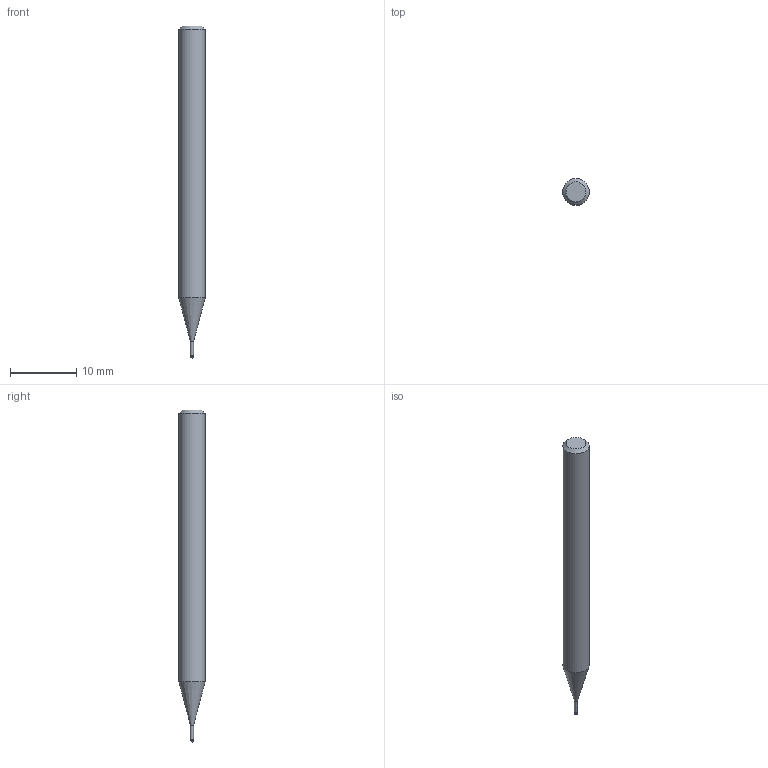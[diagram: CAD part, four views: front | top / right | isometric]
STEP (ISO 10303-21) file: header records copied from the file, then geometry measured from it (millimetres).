
FILE_DESCRIPTION((''),'2;1');
FILE_NAME('C:\Users\nsx150\AppData\Local\Temp\Mastercam 2021\LJSIDMOTM8\TEMP.step','2021-08-03T14:23:52',(''),(''),'STEP Write','Mastercam 2021 ... CNC Software, Inc.','');
FILE_SCHEMA(('AUTOMOTIVE_DESIGN'));
Length unit declared in the file: millimetre
Products named in the file (1): None
Bounding box: 4 x 4 x 50 mm (x, y, z)
Volume: 544.1 mm3; surface area: 574.4 mm2
Topology: 2 solids, 2 shells, 9 faces, 14 edges, 8 vertices
Faces by surface type: plane 3, cylinder 3, cone 2, sphere 1
Full cylindrical faces by diameter (mm): 0.46 x1, 0.5 x1, 4 x1
Entity records: 211 total; most frequent: DIRECTION 36, CARTESIAN_POINT 25, AXIS2_PLACEMENT_3D 18, ORIENTED_EDGE 14, EDGE_LOOP 14, STYLED_ITEM 12, ADVANCED_FACE 9, FACE_BOUND 8
